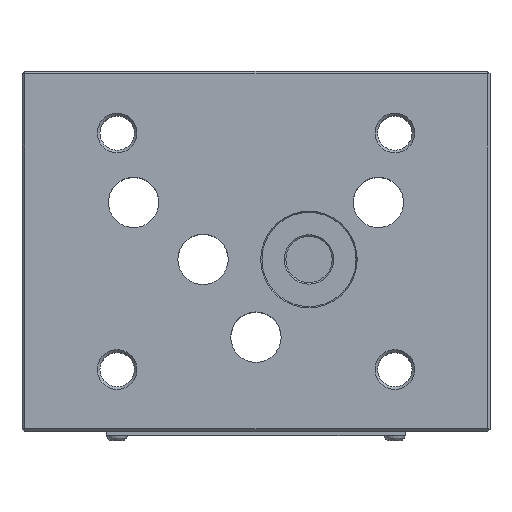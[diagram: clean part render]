
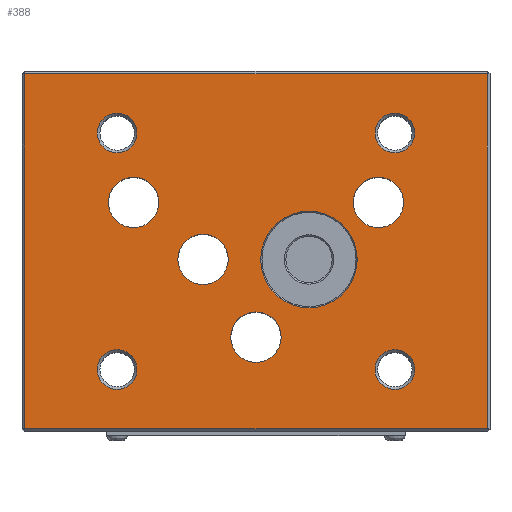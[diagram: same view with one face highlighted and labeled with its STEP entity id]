
A CAD part, top view. The second image highlights one B-rep face of the part: STEP entity #388.
In plain terms, the highlighted planar face has unit normal (0, 0, 1).
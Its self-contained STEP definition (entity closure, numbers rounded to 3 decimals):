
#207=FACE_BOUND('',#579,.T.);
#208=FACE_BOUND('',#580,.T.);
#209=FACE_BOUND('',#581,.T.);
#210=FACE_BOUND('',#582,.T.);
#211=FACE_BOUND('',#583,.T.);
#212=FACE_BOUND('',#584,.T.);
#213=FACE_BOUND('',#585,.T.);
#214=FACE_BOUND('',#586,.T.);
#215=FACE_BOUND('',#587,.T.);
#216=FACE_BOUND('',#588,.T.);
#319=CIRCLE('',#1370,4.9);
#321=CIRCLE('',#1373,4.9);
#323=CIRCLE('',#1376,4.9);
#325=CIRCLE('',#1379,4.9);
#334=CIRCLE('',#1393,3.85);
#335=CIRCLE('',#1394,3.85);
#336=CIRCLE('',#1395,3.85);
#337=CIRCLE('',#1396,3.85);
#338=CIRCLE('',#1397,9.389);
#388=ADVANCED_FACE('',(#207,#208,#209,#210,#211,#212,#213,#214,#215,#216),
#474,.T.);
#474=PLANE('',#1398);
#579=EDGE_LOOP('',(#747,#748,#749,#750));
#580=EDGE_LOOP('',(#751));
#581=EDGE_LOOP('',(#752));
#582=EDGE_LOOP('',(#753));
#583=EDGE_LOOP('',(#754));
#584=EDGE_LOOP('',(#755));
#585=EDGE_LOOP('',(#756));
#586=EDGE_LOOP('',(#757));
#587=EDGE_LOOP('',(#758));
#588=EDGE_LOOP('',(#759));
#747=ORIENTED_EDGE('',*,*,#1120,.T.);
#748=ORIENTED_EDGE('',*,*,#1121,.T.);
#749=ORIENTED_EDGE('',*,*,#1122,.T.);
#750=ORIENTED_EDGE('',*,*,#1123,.T.);
#751=ORIENTED_EDGE('',*,*,#1124,.T.);
#752=ORIENTED_EDGE('',*,*,#1125,.T.);
#753=ORIENTED_EDGE('',*,*,#1126,.T.);
#754=ORIENTED_EDGE('',*,*,#1127,.T.);
#755=ORIENTED_EDGE('',*,*,#1128,.T.);
#756=ORIENTED_EDGE('',*,*,#1107,.F.);
#757=ORIENTED_EDGE('',*,*,#1105,.F.);
#758=ORIENTED_EDGE('',*,*,#1103,.F.);
#759=ORIENTED_EDGE('',*,*,#1101,.F.);
#992=VERTEX_POINT('',#1923);
#994=VERTEX_POINT('',#1928);
#996=VERTEX_POINT('',#1933);
#998=VERTEX_POINT('',#1938);
#1011=VERTEX_POINT('',#1969);
#1012=VERTEX_POINT('',#1970);
#1013=VERTEX_POINT('',#1972);
#1014=VERTEX_POINT('',#1974);
#1015=VERTEX_POINT('',#1977);
#1016=VERTEX_POINT('',#1979);
#1017=VERTEX_POINT('',#1981);
#1018=VERTEX_POINT('',#1983);
#1019=VERTEX_POINT('',#1985);
#1101=EDGE_CURVE('',#992,#992,#319,.T.);
#1103=EDGE_CURVE('',#994,#994,#321,.T.);
#1105=EDGE_CURVE('',#996,#996,#323,.T.);
#1107=EDGE_CURVE('',#998,#998,#325,.T.);
#1120=EDGE_CURVE('',#1011,#1012,#1234,.T.);
#1121=EDGE_CURVE('',#1012,#1013,#1235,.T.);
#1122=EDGE_CURVE('',#1013,#1014,#1236,.T.);
#1123=EDGE_CURVE('',#1014,#1011,#1237,.T.);
#1124=EDGE_CURVE('',#1015,#1015,#334,.T.);
#1125=EDGE_CURVE('',#1016,#1016,#335,.T.);
#1126=EDGE_CURVE('',#1017,#1017,#336,.T.);
#1127=EDGE_CURVE('',#1018,#1018,#337,.T.);
#1128=EDGE_CURVE('',#1019,#1019,#338,.T.);
#1234=LINE('',#1968,#1306);
#1235=LINE('',#1971,#1307);
#1236=LINE('',#1973,#1308);
#1237=LINE('',#1975,#1309);
#1306=VECTOR('',#1591,1.);
#1307=VECTOR('',#1592,1.);
#1308=VECTOR('',#1593,1.);
#1309=VECTOR('',#1594,1.);
#1370=AXIS2_PLACEMENT_3D('',#1922,#1541,#1542);
#1373=AXIS2_PLACEMENT_3D('',#1927,#1547,#1548);
#1376=AXIS2_PLACEMENT_3D('',#1932,#1553,#1554);
#1379=AXIS2_PLACEMENT_3D('',#1937,#1559,#1560);
#1393=AXIS2_PLACEMENT_3D('',#1976,#1595,#1596);
#1394=AXIS2_PLACEMENT_3D('',#1978,#1597,#1598);
#1395=AXIS2_PLACEMENT_3D('',#1980,#1599,#1600);
#1396=AXIS2_PLACEMENT_3D('',#1982,#1601,#1602);
#1397=AXIS2_PLACEMENT_3D('',#1984,#1603,#1604);
#1398=AXIS2_PLACEMENT_3D('',#1986,#1605,#1606);
#1541=DIRECTION('',(0.,0.,1.));
#1542=DIRECTION('',(1.,0.,0.));
#1547=DIRECTION('',(0.,0.,1.));
#1548=DIRECTION('',(1.,0.,0.));
#1553=DIRECTION('',(0.,0.,1.));
#1554=DIRECTION('',(1.,0.,0.));
#1559=DIRECTION('',(0.,0.,1.));
#1560=DIRECTION('',(1.,0.,0.));
#1591=DIRECTION('',(0.,1.,0.));
#1592=DIRECTION('',(-1.,0.,0.));
#1593=DIRECTION('',(0.,-1.,0.));
#1594=DIRECTION('',(1.,0.,0.));
#1595=DIRECTION('',(0.,0.,-1.));
#1596=DIRECTION('',(1.,0.,0.));
#1597=DIRECTION('',(0.,0.,-1.));
#1598=DIRECTION('',(1.,0.,0.));
#1599=DIRECTION('',(0.,0.,-1.));
#1600=DIRECTION('',(1.,0.,0.));
#1601=DIRECTION('',(0.,0.,-1.));
#1602=DIRECTION('',(1.,0.,0.));
#1603=DIRECTION('',(0.,0.,-1.));
#1604=DIRECTION('',(-1.,0.,0.));
#1605=DIRECTION('',(0.,0.,1.));
#1606=DIRECTION('',(-1.,0.,0.));
#1922=CARTESIAN_POINT('',(52.285,161.827,50.));
#1923=CARTESIAN_POINT('',(57.185,161.827,50.));
#1927=CARTESIAN_POINT('',(65.785,150.757,50.));
#1928=CARTESIAN_POINT('',(70.685,150.757,50.));
#1932=CARTESIAN_POINT('',(76.081,135.627,50.));
#1933=CARTESIAN_POINT('',(80.981,135.627,50.));
#1937=CARTESIAN_POINT('',(99.885,161.827,50.));
#1938=CARTESIAN_POINT('',(104.785,161.827,50.));
#1968=CARTESIAN_POINT('',(121.085,175.327,50.));
#1969=CARTESIAN_POINT('',(121.085,117.827,50.));
#1970=CARTESIAN_POINT('',(121.085,186.827,50.));
#1971=CARTESIAN_POINT('',(103.085,186.827,50.));
#1972=CARTESIAN_POINT('',(31.085,186.827,50.));
#1973=CARTESIAN_POINT('',(31.085,175.327,50.));
#1974=CARTESIAN_POINT('',(31.085,117.827,50.));
#1975=CARTESIAN_POINT('',(103.085,117.827,50.));
#1976=CARTESIAN_POINT('',(103.085,129.327,50.));
#1977=CARTESIAN_POINT('',(106.935,129.327,50.));
#1978=CARTESIAN_POINT('',(103.085,175.327,50.));
#1979=CARTESIAN_POINT('',(106.935,175.327,50.));
#1980=CARTESIAN_POINT('',(49.085,129.327,50.));
#1981=CARTESIAN_POINT('',(52.935,129.327,50.));
#1982=CARTESIAN_POINT('',(49.085,175.327,50.));
#1983=CARTESIAN_POINT('',(52.935,175.327,50.));
#1984=CARTESIAN_POINT('',(86.385,150.727,50.));
#1985=CARTESIAN_POINT('',(76.996,150.727,50.));
#1986=CARTESIAN_POINT('',(103.085,175.327,50.));
